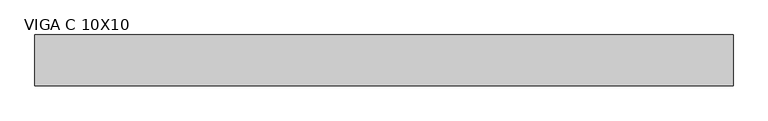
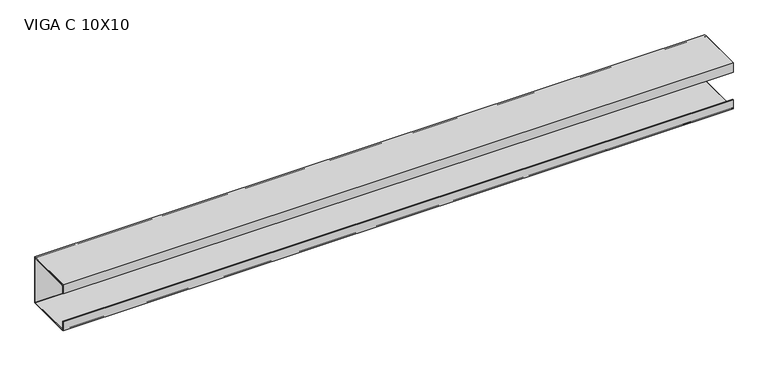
"""IFC4 building model written with IfcOpenShell, lengths in millimetres: beam geometry, VIGA PERFIL C AÇO : VIGA C 10X10."""

from ifc_helpers import new_model, si_unit, point, frame, frame_2d, origin, place, context, project, spatial, polyline, circle_curve, trimmed, segment, composite_curve, outline, extrude, source, transform, mapped, element, save


def viga_c_10x10_e525f78e(model_context):
    return source(origin(), model_context, "Body", "SweptSolid", [
        extrude(outline(polyline([(9.2, -50.0), (-90.8, -50.0), (-90.8, -30.0), (-88.9, -30.0), (-88.9, -48.1), (7.3, -48.1), (7.3, 48.1), (-88.9, 48.1), (-88.9, 30.0), (-90.8, 30.0), (-90.8, 50.0), (9.2, 50.0), (9.2, -50.0)])), frame((-660.5, 0.0, 0.0), z_axis=(1.0, 0.0, 0.0), x_axis=(0.0, 1.0, 0.0)), (0.0, 0.0, 1.0), 1375.0),
        extrude(outline(composite_curve([segment(trimmed(circle_curve(frame_2d((5.4, -46.2)), 3.8), [point((9.2, -46.2))], [point((5.4, -50.0))], False, "CARTESIAN"), True, "CONTINUOUS"), segment(polyline([(5.4, -50.0), (-87.0, -50.0)]), True, "CONTINUOUS"), segment(trimmed(circle_curve(frame_2d((-87.0, -46.2)), 3.8), [point((-87.0, -50.0))], [point((-90.8, -46.2))], False, "CARTESIAN"), True, "CONTINUOUS"), segment(polyline([(-90.8, -46.2), (-90.8, -30.0), (-88.9, -30.0), (-88.9, -46.2)]), True, "CONTINUOUS"), segment(trimmed(circle_curve(frame_2d((-87.0, -46.2)), 1.9), [point((-88.9, -46.2))], [point((-87.0, -48.1))], True, "CARTESIAN"), True, "CONTINUOUS"), segment(polyline([(-87.0, -48.1), (5.4, -48.1)]), True, "CONTINUOUS"), segment(trimmed(circle_curve(frame_2d((5.4, -46.2)), 1.9), [point((5.4, -48.1))], [point((7.3, -46.2))], True, "CARTESIAN"), True, "CONTINUOUS"), segment(polyline([(7.3, -46.2), (7.3, 46.2)]), True, "CONTINUOUS"), segment(trimmed(circle_curve(frame_2d((5.4, 46.2)), 1.9), [point((7.3, 46.2))], [point((5.4, 48.1))], True, "CARTESIAN"), True, "CONTINUOUS"), segment(polyline([(5.4, 48.1), (-87.0, 48.1)]), True, "CONTINUOUS"), segment(trimmed(circle_curve(frame_2d((-87.0, 46.2)), 1.9), [point((-87.0, 48.1))], [point((-88.9, 46.2))], True, "CARTESIAN"), True, "CONTINUOUS"), segment(polyline([(-88.9, 46.2), (-88.9, 30.0), (-90.8, 30.0), (-90.8, 46.2)]), True, "CONTINUOUS"), segment(trimmed(circle_curve(frame_2d((-87.0, 46.2)), 3.8), [point((-90.8, 46.2))], [point((-87.0, 50.0))], False, "CARTESIAN"), True, "CONTINUOUS"), segment(polyline([(-87.0, 50.0), (5.4, 50.0)]), True, "CONTINUOUS"), segment(trimmed(circle_curve(frame_2d((5.4, 46.2)), 3.8), [point((5.4, 50.0))], [point((9.2, 46.2))], False, "CARTESIAN"), True, "CONTINUOUS"), segment(polyline([(9.2, 46.2), (9.2, -46.2)]), True, "CONTINUOUS")], self_intersect=False)), frame((-660.5, 0.0, 0.0), z_axis=(1.0, 0.0, 0.0), x_axis=(0.0, 1.0, 0.0)), (0.0, 0.0, 1.0), 1375.0),
    ])


if __name__ == "__main__":
    model = new_model("IFC4")
    model_context = context("Model", 3, world=origin())
    ifc_project = project(units=[si_unit("LENGTHUNIT", "METRE", prefix="MILLI")], contexts=[model_context])
    site = spatial("IfcSite", under=ifc_project)
    building = spatial("IfcBuilding", under=site)
    placement = place(None, origin())
    viga_c_10x10_shape = viga_c_10x10_e525f78e(model_context)
    element("IfcBeam", 1, ObjectType="VIGA PERFIL C AÇO : VIGA C 10X10", at=placement, inside=building, context=model_context, shape_type="MappedRepresentation", body=[
        mapped(viga_c_10x10_shape, transform((0.0, 0.0, 0.0), x_axis=(1.0, 0.0, 0.0), y_axis=(0.0, 1.0, 0.0), z_axis=(0.0, 0.0, 1.0))),
    ])
    save(model, "model.ifc")
